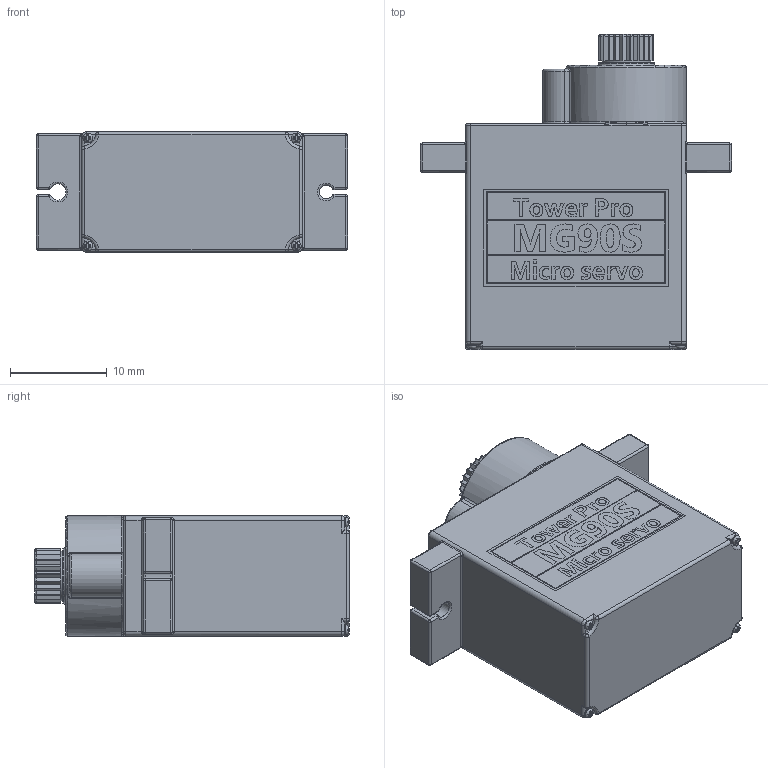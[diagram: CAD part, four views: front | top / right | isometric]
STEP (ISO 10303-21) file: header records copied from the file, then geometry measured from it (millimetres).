
FILE_DESCRIPTION(/* description */ (''),/* implementation_level */ '2;1');
FILE_NAME(/* name */ 'C:/Users/Ulises/Desktop/T1/mecanica_cad/Tower-Pro-MG90S.step',/* time_stamp */ '2020-10-16T01:35:12-03:00',/* author */ (''),/* organization */ (''),/* preprocessor_version */ 'ST-DEVELOPER v18.1',/* originating_system */ 'Autodesk Translation Framework v9.3.0.1241',/* authorisation */ '');
FILE_SCHEMA (('AUTOMOTIVE_DESIGN { 1 0 10303 214 3 1 1 }'));
Length unit declared in the file: millimetre
Products named in the file (1): Tower-Pro-MG90S
Bounding box: 32.1 x 32.5 x 12.4 mm (x, y, z)
Volume: 7719.8 mm3; surface area: 2812.7 mm2
Topology: 1 solids, 1 shells, 652 faces, 2053 edges, 1453 vertices
Faces by surface type: plane 290, cylinder 182, bspline 84, torus 57, sphere 39
Full cylindrical faces by diameter (mm): 1 x4, 2.2 x1, 5.1 x1, 5.7 x1
Entity records: 30109 total; most frequent: CARTESIAN_POINT 12109, ORIENTED_EDGE 4036, DIRECTION 3220, EDGE_CURVE 2018, VERTEX_POINT 1453, AXIS2_PLACEMENT_3D 1141, LINE 938, VECTOR 938
